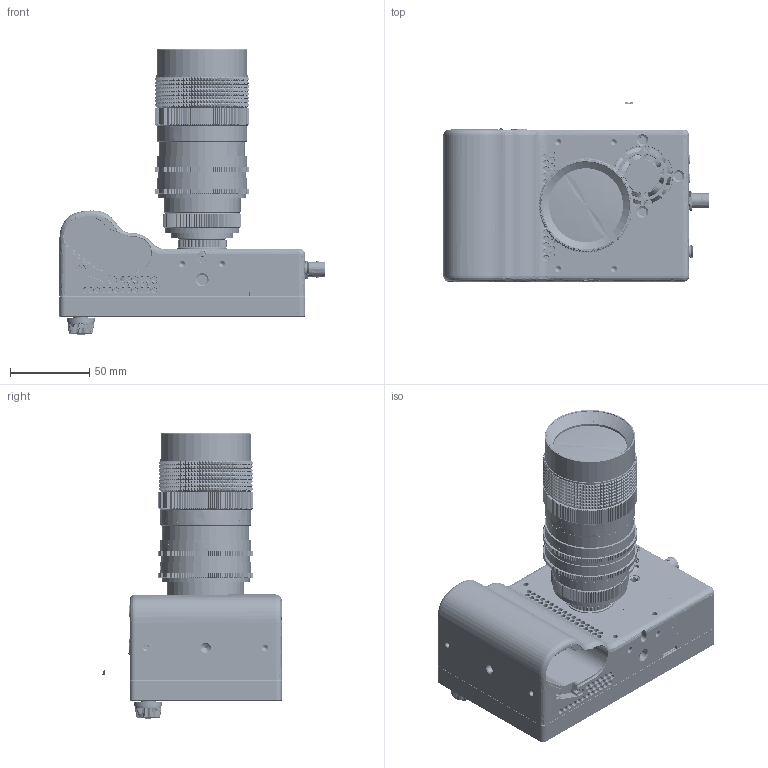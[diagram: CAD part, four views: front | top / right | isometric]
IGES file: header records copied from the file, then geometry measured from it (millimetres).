
Start section: SolidWorks IGES file using analytic representation for surfaces
Global section: file name: S:\KronTech\Models\Mechanical\Solid model.IGS; native system: SolidWorks 2014; preprocessor: SolidWorks 2014; author: Loial Otter; date: 170414.065209; units: millimetre
Bounding box: 167.32 x 113.28 x 180.02 mm (x, y, z)
Surface area: 172877.8 mm2 (no closed solid volume)
Topology: 0 solids, 0 shells, 21929 faces, 148208 edges, 148107 vertices
Faces by surface type: bspline 18895, revolution 3034
